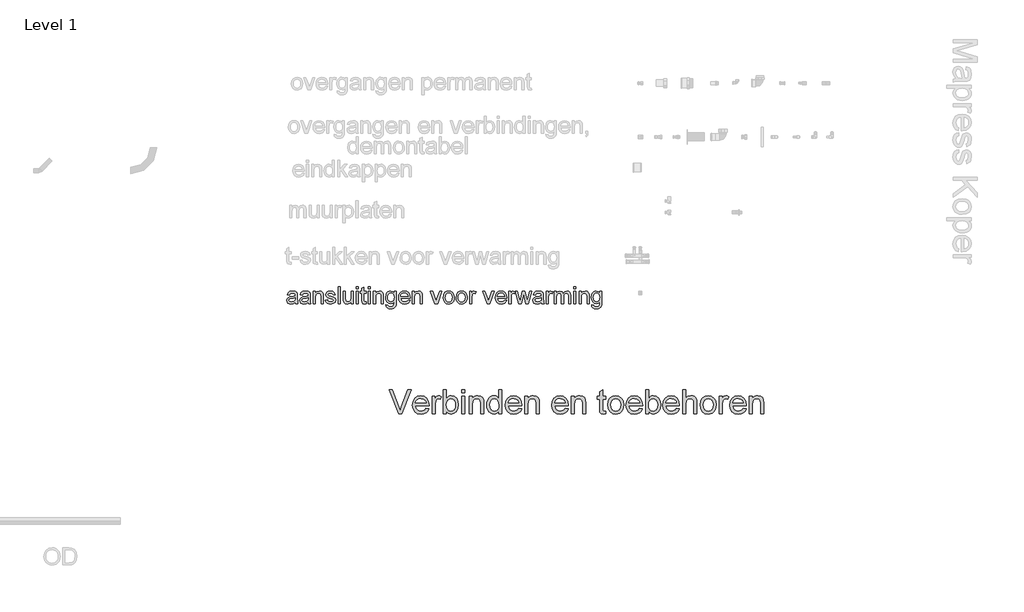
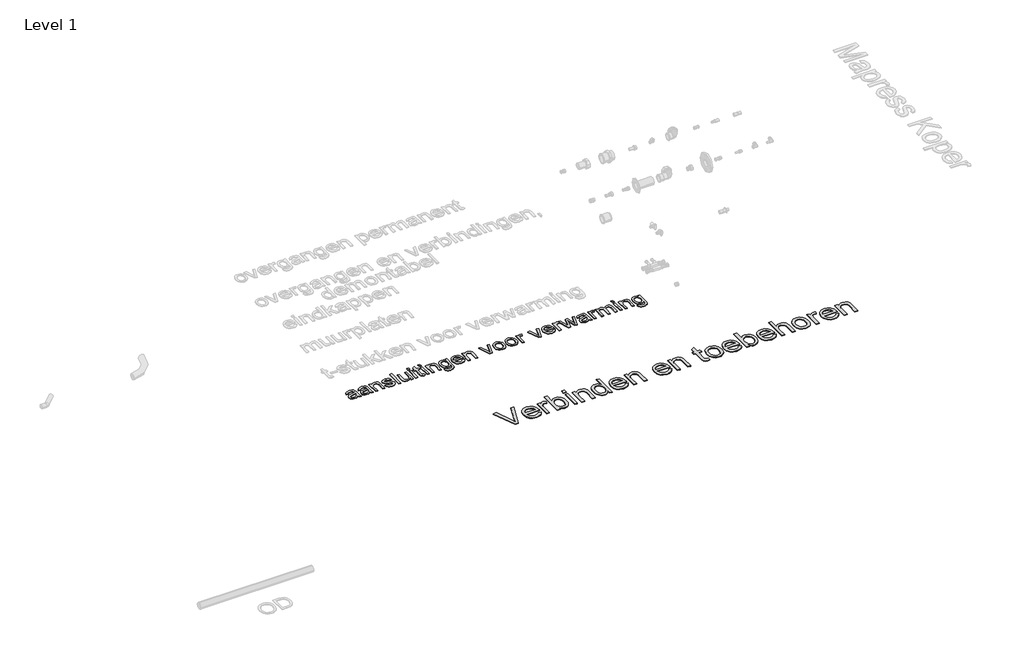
# One storey, part 3 of 7: 2 proxies.
"""IFC4 building model written with IfcOpenShell, lengths in millimetres."""

from ifc_helpers import new_model, si_unit, origin, origin_with_axes, place, context, project, spatial, polyline, outline, extrude, element, save

model = new_model("IFC4")

# Units and contexts
model_context = context("Model", 3, world=origin())
ifc_project = project(units=[si_unit("LENGTHUNIT", "METRE", prefix="MILLI")], contexts=[model_context])

# Site, building, storey
site = spatial("IfcSite", under=ifc_project)
building = spatial("IfcBuilding", under=site)
storey = spatial("IfcBuildingStorey", under=building, Name="Level 1", Elevation=0.0)

# Proxies
placement = place(None, origin())
element("IfcBuildingElementProxy", 1, Name="medium", ObjectType="medium", at=placement, inside=storey, context=model_context, shape_type="SweptSolid", body=[
    extrude(outline(polyline([(3174.865766, 2920.2899328), (3094.9127457, 3121.2025531), (3121.7926568, 3121.2025531), (3175.3072244, 2976.4532507), (3186.1474805, 2943.8343805), (3196.8405838, 2976.4532507), (3250.5023042, 3121.2025531), (3277.3822153, 3121.2025531), (3200.8137094, 2920.2899328), (3174.865766, 2920.2899328)])), origin_with_axes(), (0.0, 0.0, 1.0), 5.0),
    extrude(outline(polyline([(3400.8924638, 2964.2395685), (3425.516032, 2961.1003088), (3416.6439446, 2942.5467935), (3402.4866191, 2928.6776423), (3383.3628867, 2920.0324154), (3359.5915785, 2917.1506731), (3330.1242307, 2922.1232114), (3307.450437, 2937.0408263), (3292.9926746, 2960.9347619), (3288.1734205, 2992.8362622), (3293.0417255, 3025.8107517), (3307.6466408, 3050.4711081), (3330.0138661, 3065.8485755), (3358.1691014, 3070.974398), (3385.4475514, 3065.8608383), (3407.2445596, 3050.5201591), (3421.5367751, 3025.9088536), (3426.3008469, 2992.983415), (3426.1536941, 2986.2143863), (3313.287498, 2986.2143863), (3317.6346369, 2967.4156164), (3327.7329977, 2953.5955161), (3342.3072561, 2945.097442), (3360.0820878, 2942.2647506), (3384.705656, 2947.5132004), (3393.853655, 2954.3190173), (3400.8924638, 2964.2395685)]), holes=[polyline([(3313.287498, 3011.3284639), (3401.1867694, 3011.3284639), (3397.7899923, 3024.5967411), (3391.1313282, 3034.0880966), (3376.4896248, 3042.9172645), (3358.0709996, 3045.8603205), (3341.1422964, 3043.5120071), (3327.1443865, 3036.4670669), (3317.4139077, 3025.4857893), (3313.287498, 3011.3284639)])]), origin_with_axes(), (0.0, 0.0, 1.0), 5.0),
    extrude(outline(polyline([(3451.4149245, 2920.2899328), (3451.4149245, 3067.8351383), (3473.3897423, 3067.8351383), (3473.3897423, 3046.0074733), (3488.9879389, 3066.1183557), (3504.6842374, 3070.974398), (3517.1922252, 3069.0368862), (3529.8964168, 3063.2243506), (3521.5087073, 3040.7099725), (3503.8503715, 3045.8603205), (3489.6501265, 3040.9061763), (3480.6002294, 3027.1719151), (3476.529002, 2997.8394574), (3476.529002, 2920.2899328), (3451.4149245, 2920.2899328)])), origin_with_axes(), (0.0, 0.0, 1.0), 5.0),
    extrude(outline(polyline([(3570.7067928, 2920.2899328), (3545.5927152, 2920.2899328), (3545.5927152, 3121.2025531), (3570.7067928, 3121.2025531), (3570.7067928, 3046.6941863), (3588.2915521, 3064.9043451), (3598.6842185, 3069.4568848), (3610.1437427, 3070.974398), (3635.3068711, 3065.505219), (3654.8291423, 3050.1277516), (3666.8220954, 3026.2154219), (3671.1631029, 2996.2698275), (3666.6688112, 2962.743515), (3653.1859361, 2937.8011158), (3633.4000161, 2922.3132838), (3609.9965899, 2917.1506731), (3598.1599867, 2918.8153391), (3587.6661528, 2923.8093372), (3578.5150881, 2932.1326673), (3570.7067928, 2943.7853295), (3570.7067928, 2920.2899328)]), holes=[polyline([(3570.7067928, 2995.0926051), (3572.4235754, 2974.1478569), (3577.5739234, 2959.9721373), (3590.731836, 2946.6915973), (3607.8383488, 2942.2647506), (3622.3328994, 2945.5266377), (3634.7182599, 2955.3122987), (3643.216334, 2971.5604202), (3646.0490254, 2994.2096883), (3643.33283, 3017.1900503), (3635.1842438, 3033.2542308), (3623.1851594, 3042.708798), (3608.9174693, 3045.8603205), (3594.4229187, 3042.5984334), (3582.0375582, 3032.8127724), (3573.5394841, 3016.8589565), (3570.7067928, 2995.0926051)])]), origin_with_axes(), (0.0, 0.0, 1.0), 5.0),
    extrude(outline(polyline([(3699.4164402, 2920.2899328), (3699.4164402, 3067.8351383), (3724.5305177, 3067.8351383), (3724.5305177, 2920.2899328), (3699.4164402, 2920.2899328)])), origin_with_axes(), (0.0, 0.0, 1.0), 5.0),
    extrude(outline(polyline([(3699.4164402, 3096.0884755), (3699.4164402, 3121.2025531), (3724.5305177, 3121.2025531), (3724.5305177, 3096.0884755), (3699.4164402, 3096.0884755)])), origin_with_axes(), (0.0, 0.0, 1.0), 5.0),
    extrude(outline(polyline([(3762.201634, 2920.2899328), (3762.201634, 3067.8351383), (3787.3157115, 3067.8351383), (3787.3157115, 3047.2337466), (3796.0406462, 3057.6202816), (3806.5191517, 3065.0392352), (3818.751228, 3069.4906073), (3832.7368752, 3070.974398), (3856.4530012, 3066.1919321), (3872.639809, 3053.6348933), (3880.1691271, 3035.1672171), (3881.4935023, 3010.8870055), (3881.4935023, 2920.2899328), (3856.3794248, 2920.2899328), (3856.3794248, 3007.5024911), (3853.4854197, 3029.7225636), (3843.2583003, 3041.470262), (3826.0168974, 3045.8603205), (3811.307749, 3043.3955111), (3798.7691043, 3036.001083), (3790.1790597, 3021.7149989), (3787.3157115, 2998.5752214), (3787.3157115, 2920.2899328), (3762.201634, 2920.2899328)])), origin_with_axes(), (0.0, 0.0, 1.0), 5.0),
    extrude(outline(polyline([(4007.06389, 2920.2899328), (4007.06389, 2943.9815333), (3999.5499002, 2932.2430319), (3990.4478865, 2923.8583881), (3979.7578489, 2918.8276019), (3967.4797873, 2917.1506731), (3951.2439286, 2919.5786943), (3936.381496, 2926.8627578), (3923.7999317, 2938.4939602), (3914.4066781, 2953.9633981), (3908.5573544, 2972.6456721), (3906.6075798, 2993.9153827), (3908.4040702, 3014.9214447), (3913.7935415, 3033.8918929), (3922.7698622, 3049.7476069), (3935.3269009, 3061.4094661), (3950.514296, 3068.583165), (3967.3816854, 3070.974398), (3979.6689441, 3069.2637467), (3990.5337257, 3064.1317929), (4007.06389, 3046.3508298), (4007.06389, 3121.2025531), (4032.1779675, 3121.2025531), (4032.1779675, 2920.2899328), (4007.06389, 2920.2899328)]), holes=[polyline([(3931.7216574, 2994.0134846), (3934.5543487, 2971.2967714), (3943.0524228, 2955.1406205), (3955.4009951, 2945.4837181), (3969.7851811, 2942.2647506), (3984.1632358, 2945.3365653), (3996.1991084, 2954.5520093), (4004.3476946, 2970.0827608), (4007.06389, 2992.1004982), (4004.2986437, 3016.1722435), (3996.0029047, 3032.8618233), (3983.6604637, 3042.6106962), (3968.7551116, 3045.8603205), (3954.2237727, 3042.7394549), (3942.3166588, 3033.3768581), (3934.3704077, 3017.2942835), (3931.7216574, 2994.0134846)])]), origin_with_axes(), (0.0, 0.0, 1.0), 5.0),
    extrude(outline(polyline([(4173.1503481, 2964.2395685), (4197.7739163, 2961.1003088), (4188.9018288, 2942.5467935), (4174.7445034, 2928.6776423), (4155.620771, 2920.0324154), (4131.8494628, 2917.1506731), (4102.3821149, 2922.1232114), (4079.7083213, 2937.0408263), (4065.2505589, 2960.9347619), (4060.4313048, 2992.8362622), (4065.2996098, 3025.8107517), (4079.904525, 3050.4711081), (4102.2717503, 3065.8485755), (4130.4269857, 3070.974398), (4157.7054356, 3065.8608383), (4179.5024439, 3050.5201591), (4193.7946594, 3025.9088536), (4198.5587312, 2992.983415), (4198.4115784, 2986.2143863), (4085.5453823, 2986.2143863), (4089.8925212, 2967.4156164), (4099.990882, 2953.5955161), (4114.5651403, 2945.097442), (4132.3399721, 2942.2647506), (4156.9635403, 2947.5132004), (4166.1115392, 2954.3190173), (4173.1503481, 2964.2395685)]), holes=[polyline([(4085.5453823, 3011.3284639), (4173.4446537, 3011.3284639), (4170.0478766, 3024.5967411), (4163.3892125, 3034.0880966), (4148.7475091, 3042.9172645), (4130.3288838, 3045.8603205), (4113.4001807, 3043.5120071), (4099.4022708, 3036.4670669), (4089.671792, 3025.4857893), (4085.5453823, 3011.3284639)])]), origin_with_axes(), (0.0, 0.0, 1.0), 5.0),
    extrude(outline(polyline([(4223.6728087, 2920.2899328), (4223.6728087, 3067.8351383), (4248.7868863, 3067.8351383), (4248.7868863, 3047.2337466), (4257.5118209, 3057.6202816), (4267.9903264, 3065.0392352), (4280.2224028, 3069.4906073), (4294.20805, 3070.974398), (4317.9241759, 3066.1919321), (4334.1109837, 3053.6348933), (4341.6403019, 3035.1672171), (4342.9646771, 3010.8870055), (4342.9646771, 2920.2899328), (4317.8505995, 2920.2899328), (4317.8505995, 3007.5024911), (4314.9565945, 3029.7225636), (4304.729475, 3041.470262), (4287.4880722, 3045.8603205), (4272.7789237, 3043.3955111), (4260.2402791, 3036.001083), (4251.6502345, 3021.7149989), (4248.7868863, 2998.5752214), (4248.7868863, 2920.2899328), (4223.6728087, 2920.2899328)])), origin_with_axes(), (0.0, 0.0, 1.0), 5.0),
    extrude(outline(polyline([(4559.2792902, 2964.2395685), (4583.9028584, 2961.1003088), (4575.030771, 2942.5467935), (4560.8734455, 2928.6776423), (4541.7497131, 2920.0324154), (4517.9784049, 2917.1506731), (4488.5110571, 2922.1232114), (4465.8372634, 2937.0408263), (4451.379501, 2960.9347619), (4446.5602469, 2992.8362622), (4451.428552, 3025.8107517), (4466.0334672, 3050.4711081), (4488.4006925, 3065.8485755), (4516.5559278, 3070.974398), (4543.8343778, 3065.8608383), (4565.631386, 3050.5201591), (4579.9236015, 3025.9088536), (4584.6876733, 2992.983415), (4584.5405206, 2986.2143863), (4471.6743244, 2986.2143863), (4476.0214633, 2967.4156164), (4486.1198241, 2953.5955161), (4500.6940825, 2945.097442), (4518.4689142, 2942.2647506), (4543.0924824, 2947.5132004), (4552.2404814, 2954.3190173), (4559.2792902, 2964.2395685)]), holes=[polyline([(4471.6743244, 3011.3284639), (4559.5735958, 3011.3284639), (4556.1768187, 3024.5967411), (4549.5181546, 3034.0880966), (4534.8764512, 3042.9172645), (4516.457826, 3045.8603205), (4499.5291228, 3043.5120071), (4485.5312129, 3036.4670669), (4475.8007341, 3025.4857893), (4471.6743244, 3011.3284639)])]), origin_with_axes(), (0.0, 0.0, 1.0), 5.0),
    extrude(outline(polyline([(4609.8017509, 2920.2899328), (4609.8017509, 3067.8351383), (4634.9158284, 3067.8351383), (4634.9158284, 3047.2337466), (4643.6407631, 3057.6202816), (4654.1192686, 3065.0392352), (4666.3513449, 3069.4906073), (4680.3369921, 3070.974398), (4704.0531181, 3066.1919321), (4720.2399258, 3053.6348933), (4727.769244, 3035.1672171), (4729.0936192, 3010.8870055), (4729.0936192, 2920.2899328), (4703.9795417, 2920.2899328), (4703.9795417, 3007.5024911), (4701.0855366, 3029.7225636), (4690.8584172, 3041.470262), (4673.6170143, 3045.8603205), (4658.9078659, 3043.3955111), (4646.3692212, 3036.001083), (4637.7791766, 3021.7149989), (4634.9158284, 2998.5752214), (4634.9158284, 2920.2899328), (4609.8017509, 2920.2899328)])), origin_with_axes(), (0.0, 0.0, 1.0), 5.0),
    extrude(outline(polyline([(4895.4743829, 2941.234681), (4898.6136426, 2919.5541688), (4879.8271353, 2917.1506731), (4858.7842852, 2921.3200024), (4848.2873856, 2932.2583604), (4845.2462278, 2960.7569523), (4845.2462278, 3042.7210608), (4826.4106696, 3042.7210608), (4826.4106696, 3067.8351383), (4845.2462278, 3067.8351383), (4845.2462278, 3103.6913701), (4870.3603053, 3118.4557009), (4870.3603053, 3067.8351383), (4895.4743829, 3067.8351383), (4895.4743829, 3042.7210608), (4870.3603053, 3042.7210608), (4870.3603053, 2961.4927162), (4871.6846805, 2948.54327), (4875.9766371, 2943.9570078), (4884.5360249, 2942.2647506), (4895.4743829, 2941.234681)])), origin_with_axes(), (0.0, 0.0, 1.0), 5.0),
    extrude(outline(polyline([(4914.309941, 2994.0625355), (4919.7423318, 3029.6367245), (4926.5328203, 3043.4598904), (4936.0395042, 3054.6404374), (4956.1749121, 3066.8909079), (4980.2834455, 3070.974398), (5006.6667159, 3066.0018597), (5027.7402229, 3051.0842448), (5041.5541918, 3027.3987757), (5046.1588481, 2996.1226747), (5044.1232344, 2970.7510798), (5038.0163933, 2951.437275), (5028.0161344, 2936.9733813), (5014.3002673, 2926.1515192), (4998.0092263, 2919.4008846), (4980.2834455, 2917.1506731), (4953.581344, 2922.1048173), (4932.5323625, 2936.9672499), (4918.8655464, 2961.1493597), (4914.309941, 2994.0625355)]), holes=[polyline([(4939.4240186, 2994.1115865), (4942.3302863, 2971.3826105), (4951.0490896, 2955.1896714), (4964.1702141, 2945.4959808), (4980.2834455, 2942.2647506), (4996.3231005, 2945.5143749), (5009.4196995, 2955.2632478), (5018.1385028, 2971.6707848), (5021.0447706, 2994.8964014), (5018.1201087, 3016.9631897), (5009.3461231, 3032.9353997), (4996.23113, 3042.6290903), (4980.2834455, 3045.8603205), (4964.1702141, 3042.641353), (4951.0490896, 3032.9844506), (4942.3302863, 3016.8282997), (4939.4240186, 2994.1115865)])]), origin_with_axes(), (0.0, 0.0, 1.0), 5.0),
    extrude(outline(polyline([(5177.7134496, 2964.2395685), (5202.3370178, 2961.1003088), (5193.4649303, 2942.5467935), (5179.3076049, 2928.6776423), (5160.1838725, 2920.0324154), (5136.4125642, 2917.1506731), (5106.9452164, 2922.1232114), (5084.2714228, 2937.0408263), (5069.8136604, 2960.9347619), (5064.9944063, 2992.8362622), (5069.8627113, 3025.8107517), (5084.4676265, 3050.4711081), (5106.8348518, 3065.8485755), (5134.9900872, 3070.974398), (5162.2685371, 3065.8608383), (5184.0655454, 3050.5201591), (5198.3577609, 3025.9088536), (5203.1218327, 2992.983415), (5202.9746799, 2986.2143863), (5090.1084838, 2986.2143863), (5094.4556227, 2967.4156164), (5104.5539835, 2953.5955161), (5119.1282418, 2945.097442), (5136.9030736, 2942.2647506), (5161.5266418, 2947.5132004), (5170.6746407, 2954.3190173), (5177.7134496, 2964.2395685)]), holes=[polyline([(5090.1084838, 3011.3284639), (5178.0077552, 3011.3284639), (5174.6109781, 3024.5967411), (5167.952314, 3034.0880966), (5153.3106106, 3042.9172645), (5134.8919853, 3045.8603205), (5117.9632822, 3043.5120071), (5103.9653723, 3036.4670669), (5094.2348935, 3025.4857893), (5090.1084838, 3011.3284639)])]), origin_with_axes(), (0.0, 0.0, 1.0), 5.0),
    extrude(outline(polyline([(5253.3499878, 2920.2899328), (5228.2359102, 2920.2899328), (5228.2359102, 3121.2025531), (5253.3499878, 3121.2025531), (5253.3499878, 3046.6941863), (5270.9347472, 3064.9043451), (5281.3274135, 3069.4568848), (5292.7869377, 3070.974398), (5317.9500661, 3065.505219), (5337.4723373, 3050.1277516), (5349.4652904, 3026.2154219), (5353.8062979, 2996.2698275), (5349.3120062, 2962.743515), (5335.8291311, 2937.8011158), (5316.0432111, 2922.3132838), (5292.6397849, 2917.1506731), (5280.8031817, 2918.8153391), (5270.3093478, 2923.8093372), (5261.1582831, 2932.1326673), (5253.3499878, 2943.7853295), (5253.3499878, 2920.2899328)]), holes=[polyline([(5253.3499878, 2995.0926051), (5255.0667704, 2974.1478569), (5260.2171184, 2959.9721373), (5273.3750311, 2946.6915973), (5290.4815438, 2942.2647506), (5304.9760944, 2945.5266377), (5317.3614549, 2955.3122987), (5325.859529, 2971.5604202), (5328.6922204, 2994.2096883), (5325.976025, 3017.1900503), (5317.8274388, 3033.2542308), (5305.8283544, 3042.708798), (5291.5606643, 3045.8603205), (5277.0661137, 3042.5984334), (5264.6807532, 3032.8127724), (5256.1826791, 3016.8589565), (5253.3499878, 2995.0926051)])]), origin_with_axes(), (0.0, 0.0, 1.0), 5.0),
    extrude(outline(polyline([(5485.3608994, 2964.2395685), (5509.9844676, 2961.1003088), (5501.1123802, 2942.5467935), (5486.9550547, 2928.6776423), (5467.8313223, 2920.0324154), (5444.0600141, 2917.1506731), (5414.5926663, 2922.1232114), (5391.9188726, 2937.0408263), (5377.4611102, 2960.9347619), (5372.6418561, 2992.8362622), (5377.5101612, 3025.8107517), (5392.1150764, 3050.4711081), (5414.4823017, 3065.8485755), (5442.637537, 3070.974398), (5469.915987, 3065.8608383), (5491.7129952, 3050.5201591), (5506.0052107, 3025.9088536), (5510.7692825, 2992.983415), (5510.6221297, 2986.2143863), (5397.7559336, 2986.2143863), (5402.1030725, 2967.4156164), (5412.2014333, 2953.5955161), (5426.7756917, 2945.097442), (5444.5505234, 2942.2647506), (5469.1740916, 2947.5132004), (5478.3220906, 2954.3190173), (5485.3608994, 2964.2395685)]), holes=[polyline([(5397.7559336, 3011.3284639), (5485.655205, 3011.3284639), (5482.2584279, 3024.5967411), (5475.5997638, 3034.0880966), (5460.9580604, 3042.9172645), (5442.5394352, 3045.8603205), (5425.610732, 3043.5120071), (5411.6128221, 3036.4670669), (5401.8823433, 3025.4857893), (5397.7559336, 3011.3284639)])]), origin_with_axes(), (0.0, 0.0, 1.0), 5.0),
    extrude(outline(polyline([(5535.8833601, 2920.2899328), (5535.8833601, 3121.2025531), (5560.9974376, 3121.2025531), (5560.9974376, 3047.3318484), (5580.5810225, 3065.0637606), (5604.7018186, 3070.974398), (5619.8708196, 3069.3618486), (5632.9061049, 3064.5242004), (5643.1700126, 3056.841598), (5650.0248804, 3046.6941863), (5653.8876414, 3032.7514587), (5655.1752284, 3013.6829086), (5655.1752284, 2920.2899328), (5630.0611508, 2920.2899328), (5630.0611508, 3011.0832092), (5628.0623253, 3026.8040331), (5622.0658488, 3037.5707128), (5612.4028151, 3043.7879186), (5599.4043179, 3045.8603205), (5578.8274516, 3040.2685141), (5570.5746322, 3033.6834264), (5565.0931905, 3025.1117759), (5560.9974376, 2998.6733232), (5560.9974376, 2920.2899328), (5535.8833601, 2920.2899328)])), origin_with_axes(), (0.0, 0.0, 1.0), 5.0),
    extrude(outline(polyline([(5683.4285656, 2994.0625355), (5688.8609564, 3029.6367245), (5695.6514449, 3043.4598904), (5705.1581288, 3054.6404374), (5725.2935367, 3066.8909079), (5749.4020701, 3070.974398), (5775.7853405, 3066.0018597), (5796.8588475, 3051.0842448), (5810.6728164, 3027.3987757), (5815.2774727, 2996.1226747), (5813.241859, 2970.7510798), (5807.1350179, 2951.437275), (5797.134759, 2936.9733813), (5783.4188919, 2926.1515192), (5767.1278509, 2919.4008846), (5749.4020701, 2917.1506731), (5722.6999686, 2922.1048173), (5701.6509871, 2936.9672499), (5687.984171, 2961.1493597), (5683.4285656, 2994.0625355)]), holes=[polyline([(5708.5426431, 2994.1115865), (5711.4489109, 2971.3826105), (5720.1677142, 2955.1896714), (5733.2888387, 2945.4959808), (5749.4020701, 2942.2647506), (5765.4417251, 2945.5143749), (5778.5383241, 2955.2632478), (5787.2571274, 2971.6707848), (5790.1633951, 2994.8964014), (5787.2387333, 3016.9631897), (5778.4647477, 3032.9353997), (5765.3497546, 3042.6290903), (5749.4020701, 3045.8603205), (5733.2888387, 3042.641353), (5720.1677142, 3032.9844506), (5711.4489109, 3016.8282997), (5708.5426431, 2994.1115865)])]), origin_with_axes(), (0.0, 0.0, 1.0), 5.0),
    extrude(outline(polyline([(5843.5308099, 2920.2899328), (5843.5308099, 3067.8351383), (5865.5056278, 3067.8351383), (5865.5056278, 3046.0074733), (5881.1038244, 3066.1183557), (5896.8001228, 3070.974398), (5909.3081106, 3069.0368862), (5922.0123022, 3063.2243506), (5913.6245927, 3040.7099725), (5895.966257, 3045.8603205), (5881.7660119, 3040.9061763), (5872.7161149, 3027.1719151), (5868.6448874, 2997.8394574), (5868.6448874, 2920.2899328), (5843.5308099, 2920.2899328)])), origin_with_axes(), (0.0, 0.0, 1.0), 5.0),
    extrude(outline(polyline([(6041.0098649, 2964.2395685), (6065.6334331, 2961.1003088), (6056.7613457, 2942.5467935), (6042.6040202, 2928.6776423), (6023.4802879, 2920.0324154), (5999.7089796, 2917.1506731), (5970.2416318, 2922.1232114), (5947.5678381, 2937.0408263), (5933.1100757, 2960.9347619), (5928.2908216, 2992.8362622), (5933.1591267, 3025.8107517), (5947.7640419, 3050.4711081), (5970.1312672, 3065.8485755), (5998.2865025, 3070.974398), (6025.5649525, 3065.8608383), (6047.3619607, 3050.5201591), (6061.6541762, 3025.9088536), (6066.4182481, 2992.983415), (6066.2710953, 2986.2143863), (5953.4048991, 2986.2143863), (5957.752038, 2967.4156164), (5967.8503988, 2953.5955161), (5982.4246572, 2945.097442), (6000.1994889, 2942.2647506), (6024.8230571, 2947.5132004), (6033.9710561, 2954.3190173), (6041.0098649, 2964.2395685)]), holes=[polyline([(5953.4048991, 3011.3284639), (6041.3041705, 3011.3284639), (6037.9073934, 3024.5967411), (6031.2487293, 3034.0880966), (6016.6070259, 3042.9172645), (5998.1884007, 3045.8603205), (5981.2596975, 3043.5120071), (5967.2617876, 3036.4670669), (5957.5313088, 3025.4857893), (5953.4048991, 3011.3284639)])]), origin_with_axes(), (0.0, 0.0, 1.0), 5.0),
    extrude(outline(polyline([(6091.5323256, 2920.2899328), (6091.5323256, 3067.8351383), (6116.6464031, 3067.8351383), (6116.6464031, 3047.2337466), (6125.3713378, 3057.6202816), (6135.8498433, 3065.0392352), (6148.0819196, 3069.4906073), (6162.0675668, 3070.974398), (6185.7836928, 3066.1919321), (6201.9705005, 3053.6348933), (6209.4998187, 3035.1672171), (6210.8241939, 3010.8870055), (6210.8241939, 2920.2899328), (6185.7101164, 2920.2899328), (6185.7101164, 3007.5024911), (6182.8161113, 3029.7225636), (6172.5889919, 3041.470262), (6155.347589, 3045.8603205), (6140.6384406, 3043.3955111), (6128.0997959, 3036.001083), (6119.5097513, 3021.7149989), (6116.6464031, 2998.5752214), (6116.6464031, 2920.2899328), (6091.5323256, 2920.2899328)])), origin_with_axes(), (0.0, 0.0, 1.0), 5.0),
])
element("IfcBuildingElementProxy", 2, Name="small", ObjectType="small", at=placement, inside=storey, context=model_context, shape_type="SweptSolid", body=[
    extrude(outline(polyline([(2313.0413405, 3848.9700708), (2295.9936888, 3837.0555993), (2277.1605832, 3833.5876983), (2262.4692157, 3835.6735892), (2251.6320253, 3841.931262), (2244.9494488, 3851.4336539), (2242.7219234, 3863.2537024), (2246.0868173, 3877.1596418), (2254.928248, 3887.2543238), (2267.2375795, 3893.0227135), (2282.4482737, 3895.6665587), (2312.9383335, 3901.7096336), (2313.0413405, 3905.6238981), (2311.8310087, 3913.4695947), (2308.2000134, 3918.6027749), (2300.0796315, 3922.4140323), (2288.7660339, 3923.6844515), (2270.9801657, 3920.3023897), (2262.4992594, 3908.302079), (2244.9194051, 3910.4995608), (2252.5247523, 3927.6673872), (2267.8384534, 3937.7277335), (2291.032187, 3941.2643058), (2312.3374596, 3938.1397613), (2324.3721059, 3930.2940647), (2329.7628034, 3918.3624253), (2330.6211947, 3902.9800528), (2330.6211947, 3881.1082419), (2331.5139217, 3850.5666787), (2335.0161583, 3835.7851801), (2317.436304, 3835.7851801), (2313.0413405, 3848.9700708)]), holes=[polyline([(2313.0413405, 3884.1297794), (2284.6800912, 3878.7390819), (2269.5552361, 3875.8892227), (2262.7052733, 3871.2539095), (2260.3017776, 3864.4897859), (2265.5379647, 3854.9788101), (2280.9031694, 3851.1675526), (2298.6890376, 3855.3736701), (2310.1571456, 3865.5541911), (2312.9383335, 3879.1511097), (2313.0413405, 3884.1297794)])]), origin_with_axes(), (0.0, 0.0, 1.0), 5.0),
    extrude(outline(polyline([(2420.7179479, 3848.9700708), (2403.6702962, 3837.0555993), (2384.8371906, 3833.5876983), (2370.1458232, 3835.6735892), (2359.3086327, 3841.931262), (2352.6260563, 3851.4336539), (2350.3985308, 3863.2537024), (2353.7634248, 3877.1596418), (2362.6048554, 3887.2543238), (2374.914187, 3893.0227135), (2390.1248812, 3895.6665587), (2420.6149409, 3901.7096336), (2420.7179479, 3905.6238981), (2419.5076161, 3913.4695947), (2415.8766208, 3918.6027749), (2407.7562389, 3922.4140323), (2396.4426413, 3923.6844515), (2378.6567731, 3920.3023897), (2370.1758669, 3908.302079), (2352.5960126, 3910.4995608), (2360.2013597, 3927.6673872), (2375.5150609, 3937.7277335), (2398.7087944, 3941.2643058), (2420.014067, 3938.1397613), (2432.0487134, 3930.2940647), (2437.4394109, 3918.3624253), (2438.2978022, 3902.9800528), (2438.2978022, 3881.1082419), (2439.1905292, 3850.5666787), (2442.6927657, 3835.7851801), (2425.1129115, 3835.7851801), (2420.7179479, 3848.9700708)]), holes=[polyline([(2420.7179479, 3884.1297794), (2392.3566986, 3878.7390819), (2377.2318435, 3875.8892227), (2370.3818808, 3871.2539095), (2367.9783851, 3864.4897859), (2373.2145721, 3854.9788101), (2388.5797768, 3851.1675526), (2406.365645, 3855.3736701), (2417.8337531, 3865.5541911), (2420.6149409, 3879.1511097), (2420.7179479, 3884.1297794)])]), origin_with_axes(), (0.0, 0.0, 1.0), 5.0),
    extrude(outline(polyline([(2462.4701018, 3835.7851801), (2462.4701018, 3939.066824), (2480.0499561, 3939.066824), (2480.0499561, 3924.6458498), (2493.4923642, 3937.1096918), (2511.8447707, 3941.2643058), (2528.4460588, 3937.9165796), (2539.7768243, 3929.1266525), (2545.047347, 3916.1992791), (2545.9744096, 3899.203131), (2545.9744096, 3835.7851801), (2528.3945553, 3835.7851801), (2528.3945553, 3896.8339709), (2526.3687518, 3912.3880217), (2519.2097682, 3920.6114105), (2507.1407862, 3923.6844515), (2496.8443823, 3921.9590849), (2488.067331, 3916.7829852), (2482.0542998, 3906.7827263), (2480.0499561, 3890.5848821), (2480.0499561, 3835.7851801), (2462.4701018, 3835.7851801)])), origin_with_axes(), (0.0, 0.0, 1.0), 5.0),
    extrude(outline(polyline([(2563.5542639, 3866.5499251), (2581.1341182, 3868.7474069), (2583.9067221, 3861.2278989), (2589.2716679, 3855.6998588), (2607.9159274, 3851.1675526), (2625.8391382, 3855.3221666), (2631.6761992, 3865.073492), (2625.8048026, 3872.9706922), (2607.7099135, 3877.9836975), (2581.2371251, 3886.5847785), (2569.6831779, 3896.627957), (2565.7517457, 3910.8085816), (2568.9106257, 3923.9076332), (2577.5288746, 3933.916476), (2588.7051296, 3939.1183274), (2603.8299847, 3941.2643058), (2625.2210965, 3937.8135726), (2638.818015, 3928.4742751), (2644.8610899, 3912.6970426), (2627.2812356, 3910.4995608), (2620.6716225, 3920.1993827), (2605.2034108, 3923.6844515), (2588.3789409, 3920.3538931), (2583.3316, 3912.5940356), (2585.4260748, 3907.4780233), (2591.9841845, 3903.5980945), (2607.1262074, 3899.8555084), (2632.9294505, 3891.580616), (2644.9125934, 3882.2069828), (2649.2560535, 3866.9276173), (2644.157209, 3850.1031473), (2629.4443818, 3837.8968227), (2607.6755779, 3833.5876983), (2589.9497971, 3835.6650053), (2577.0138398, 3841.8969263), (2568.3784231, 3852.21479), (2563.5542639, 3866.5499251)])), origin_with_axes(), (0.0, 0.0, 1.0), 5.0),
    extrude(outline(polyline([(2669.0333896, 3835.7851801), (2669.0333896, 3976.4240143), (2686.6132438, 3976.4240143), (2686.6132438, 3835.7851801), (2669.0333896, 3835.7851801)])), origin_with_axes(), (0.0, 0.0, 1.0), 5.0),
    extrude(outline(polyline([(2778.9074788, 3835.7851801), (2778.9074788, 3853.5367126), (2765.138882, 3838.5749519), (2747.1813355, 3833.5876983), (2730.6487187, 3837.0899349), (2719.2492819, 3845.879862), (2714.0130948, 3858.8244032), (2712.9830252, 3875.168174), (2712.9830252, 3939.066824), (2730.5628795, 3939.066824), (2730.5628795, 3883.4430663), (2731.6272848, 3865.5198555), (2738.5802545, 3854.9959779), (2751.679306, 3851.1675526), (2766.3577977, 3855.081817), (2776.0576196, 3865.7430372), (2778.9074788, 3885.3315272), (2778.9074788, 3939.066824), (2796.4873331, 3939.066824), (2796.4873331, 3835.7851801), (2778.9074788, 3835.7851801)])), origin_with_axes(), (0.0, 0.0, 1.0), 5.0),
    extrude(outline(polyline([(2820.6596327, 3958.84416), (2820.6596327, 3976.4240143), (2838.239487, 3976.4240143), (2838.239487, 3958.84416), (2820.6596327, 3958.84416)])), origin_with_axes(), (0.0, 0.0, 1.0), 5.0),
    extrude(outline(polyline([(2820.6596327, 3835.7851801), (2820.6596327, 3939.066824), (2838.239487, 3939.066824), (2838.239487, 3835.7851801), (2820.6596327, 3835.7851801)])), origin_with_axes(), (0.0, 0.0, 1.0), 5.0),
    extrude(outline(polyline([(2901.9664587, 3850.4465039), (2904.1639405, 3835.2701453), (2891.0133854, 3833.5876983), (2876.2833904, 3836.5062288), (2868.9355606, 3844.1630794), (2866.8067502, 3864.1120937), (2866.8067502, 3921.4869697), (2853.6218595, 3921.4869697), (2853.6218595, 3939.066824), (2866.8067502, 3939.066824), (2866.8067502, 3964.1661862), (2884.3866044, 3974.5012177), (2884.3866044, 3939.066824), (2901.9664587, 3939.066824), (2901.9664587, 3921.4869697), (2884.3866044, 3921.4869697), (2884.3866044, 3864.6271285), (2885.3136671, 3855.5625162), (2888.3180367, 3852.3521326), (2894.3096081, 3851.1675526), (2901.9664587, 3850.4465039)])), origin_with_axes(), (0.0, 0.0, 1.0), 5.0),
    extrude(outline(polyline([(2919.546313, 3958.84416), (2919.546313, 3976.4240143), (2937.1261673, 3976.4240143), (2937.1261673, 3958.84416), (2919.546313, 3958.84416)])), origin_with_axes(), (0.0, 0.0, 1.0), 5.0),
    extrude(outline(polyline([(2919.546313, 3835.7851801), (2919.546313, 3939.066824), (2937.1261673, 3939.066824), (2937.1261673, 3835.7851801), (2919.546313, 3835.7851801)])), origin_with_axes(), (0.0, 0.0, 1.0), 5.0),
    extrude(outline(polyline([(2963.4959487, 3835.7851801), (2963.4959487, 3939.066824), (2981.075803, 3939.066824), (2981.075803, 3924.6458498), (2994.5182111, 3937.1096918), (3012.8706175, 3941.2643058), (3029.4719057, 3937.9165796), (3040.8026711, 3929.1266525), (3046.0731939, 3916.1992791), (3047.0002565, 3899.203131), (3047.0002565, 3835.7851801), (3029.4204022, 3835.7851801), (3029.4204022, 3896.8339709), (3027.3945987, 3912.3880217), (3020.2356151, 3920.6114105), (3008.1666331, 3923.6844515), (2997.8702292, 3921.9590849), (2989.0931779, 3916.7829852), (2983.0801467, 3906.7827263), (2981.075803, 3890.5848821), (2981.075803, 3835.7851801), (2963.4959487, 3835.7851801)])), origin_with_axes(), (0.0, 0.0, 1.0), 5.0),
    extrude(outline(polyline([(3066.7775926, 3826.995253), (3084.3574468, 3824.7977712), (3090.0571652, 3815.5271449), (3107.1219847, 3811.6128805), (3125.1138668, 3816.0421797), (3133.69778, 3828.471686), (3134.8995279, 3848.9700708), (3122.521525, 3839.0814028), (3107.4310056, 3835.7851801), (3089.3060728, 3839.6221893), (3075.7907014, 3851.1332169), (3067.3827584, 3868.0091903), (3064.5801108, 3887.9410368), (3069.6102839, 3915.1863774), (3075.7649497, 3926.2467496), (3084.1686007, 3934.4658465), (3094.533676, 3939.5646909), (3106.5726142, 3941.2643058), (3122.2554237, 3937.4187126), (3134.8995279, 3925.8819333), (3134.8995279, 3939.066824), (3152.4793821, 3939.066824), (3152.4793821, 3849.8971334), (3151.2776343, 3829.3086176), (3147.6723907, 3815.7503266), (3141.4619295, 3806.7586775), (3132.4445287, 3799.8700872), (3120.8176182, 3795.4922914), (3106.7786282, 3794.0330262), (3090.4219815, 3796.0888734), (3077.5418197, 3802.2564151), (3069.2798033, 3812.552819), (3066.7775926, 3826.995253)]), holes=[polyline([(3082.159965, 3889.1427847), (3084.0355501, 3873.0179037), (3089.6623052, 3861.9317798), (3098.1217517, 3855.5067207), (3108.4954108, 3853.3650344), (3118.7918147, 3855.4938449), (3127.2941808, 3861.8802763), (3132.9981911, 3872.8247656), (3134.8995279, 3888.6277499), (3132.9423957, 3903.8684878), (3127.070999, 3914.8430209), (3118.4441662, 3921.4740938), (3108.2207256, 3923.6844515), (3098.1818391, 3921.5084295), (3089.7653122, 3914.9803635), (3084.0613018, 3904.1689248), (3082.159965, 3889.1427847)])]), origin_with_axes(), (0.0, 0.0, 1.0), 5.0),
    extrude(outline(polyline([(3251.1600485, 3866.5499251), (3268.3965463, 3864.3524433), (3262.1860851, 3851.3649826), (3252.2759573, 3841.6565767), (3238.8893446, 3835.6049179), (3222.2494288, 3833.5876983), (3201.6222853, 3837.0684751), (3185.7506298, 3847.5108056), (3175.6301961, 3864.2365605), (3172.2567182, 3886.5676107), (3175.6645318, 3909.6497534), (3185.8879724, 3926.9120028), (3201.5450301, 3937.67623), (3221.2536949, 3941.2643058), (3240.3486098, 3937.6848139), (3255.6065156, 3926.9463385), (3265.6110664, 3909.7184247), (3268.9459167, 3886.6706177), (3268.8429098, 3881.9322976), (3189.8365725, 3881.9322976), (3192.8795697, 3868.7731586), (3199.9484223, 3859.0990884), (3210.1504031, 3853.1504365), (3222.5927853, 3851.1675526), (3239.8292831, 3854.8414674), (3251.1600485, 3866.5499251)]), holes=[polyline([(3189.8365725, 3899.5121518), (3251.3660625, 3899.5121518), (3244.3272536, 3915.4438948), (3234.0780612, 3921.6243123), (3221.1850236, 3923.6844515), (3209.3349314, 3922.0406321), (3199.5363944, 3917.109174), (3192.7250593, 3909.4222797), (3189.8365725, 3899.5121518)])]), origin_with_axes(), (0.0, 0.0, 1.0), 5.0),
    extrude(outline(polyline([(3286.525771, 3835.7851801), (3286.525771, 3939.066824), (3304.1056253, 3939.066824), (3304.1056253, 3924.6458498), (3317.5480334, 3937.1096918), (3335.9004399, 3941.2643058), (3352.501728, 3937.9165796), (3363.8324935, 3929.1266525), (3369.1030162, 3916.1992791), (3370.0300788, 3899.203131), (3370.0300788, 3835.7851801), (3352.4502245, 3835.7851801), (3352.4502245, 3896.8339709), (3350.424421, 3912.3880217), (3343.2654374, 3920.6114105), (3331.1964554, 3923.6844515), (3320.9000515, 3921.9590849), (3312.1230002, 3916.7829852), (3306.109969, 3906.7827263), (3304.1056253, 3890.5848821), (3304.1056253, 3835.7851801), (3286.525771, 3835.7851801)])), origin_with_axes(), (0.0, 0.0, 1.0), 5.0),
    extrude(outline(polyline([(3474.4791349, 3835.7851801), (3438.1520141, 3939.066824), (3456.761938, 3939.066824), (3478.7710915, 3877.1939775), (3485.3978725, 3856.3865718), (3491.8873109, 3876.0265653), (3514.033807, 3939.066824), (3532.6437309, 3939.066824), (3496.7629736, 3835.7851801), (3474.4791349, 3835.7851801)])), origin_with_axes(), (0.0, 0.0, 1.0), 5.0),
    extrude(outline(polyline([(3543.6311398, 3887.426002), (3547.4338134, 3912.3279343), (3558.841834, 3929.8305333), (3572.9366195, 3938.4058627), (3589.8125929, 3941.2643058), (3608.2808822, 3937.7835289), (3623.0323371, 3927.3411985), (3632.7021153, 3910.7613701), (3635.9253747, 3888.8680995), (3634.5004451, 3871.107983), (3630.2256564, 3857.5883197), (3623.2254751, 3847.463594), (3613.6243682, 3839.8882906), (3602.2206395, 3835.1628464), (3589.8125929, 3833.5876983), (3571.1211219, 3837.0555993), (3556.3868348, 3847.4593021), (3546.8200636, 3864.3867789), (3543.6311398, 3887.426002)]), holes=[polyline([(3561.2109941, 3887.4603377), (3563.2453815, 3871.5500545), (3569.3485438, 3860.2149971), (3578.5333309, 3853.4294137), (3589.8125929, 3851.1675526), (3601.0403514, 3853.4422896), (3610.2079707, 3860.2665006), (3616.311133, 3871.7517765), (3618.3455205, 3888.0097081), (3616.2982572, 3903.45646), (3610.1564673, 3914.6370069), (3600.9759721, 3921.4225903), (3589.8125929, 3923.6844515), (3578.5333309, 3921.4311743), (3569.3485438, 3914.6713426), (3563.2453815, 3903.3620369), (3561.2109941, 3887.4603377)])]), origin_with_axes(), (0.0, 0.0, 1.0), 5.0),
    extrude(outline(polyline([(3651.3077472, 3887.426002), (3655.1104208, 3912.3279343), (3666.5184415, 3929.8305333), (3680.613227, 3938.4058627), (3697.4892004, 3941.2643058), (3715.9574897, 3937.7835289), (3730.7089445, 3927.3411985), (3740.3787228, 3910.7613701), (3743.6019822, 3888.8680995), (3742.1770526, 3871.107983), (3737.9022638, 3857.5883197), (3730.9020826, 3847.463594), (3721.3009756, 3839.8882906), (3709.8972469, 3835.1628464), (3697.4892004, 3833.5876983), (3678.7977293, 3837.0555993), (3664.0634423, 3847.4593021), (3654.496671, 3864.3867789), (3651.3077472, 3887.426002)]), holes=[polyline([(3668.8876015, 3887.4603377), (3670.9219889, 3871.5500545), (3677.0251512, 3860.2149971), (3686.2099384, 3853.4294137), (3697.4892004, 3851.1675526), (3708.7169589, 3853.4422896), (3717.8845782, 3860.2665006), (3723.9877405, 3871.7517765), (3726.0221279, 3888.0097081), (3723.9748646, 3903.45646), (3717.8330747, 3914.6370069), (3708.6525795, 3921.4225903), (3697.4892004, 3923.6844515), (3686.2099384, 3921.4311743), (3677.0251512, 3914.6713426), (3670.9219889, 3903.3620369), (3668.8876015, 3887.4603377)])]), origin_with_axes(), (0.0, 0.0, 1.0), 5.0),
    extrude(outline(polyline([(3763.3793182, 3835.7851801), (3763.3793182, 3939.066824), (3778.7616907, 3939.066824), (3778.7616907, 3923.7874584), (3789.6804284, 3937.8650761), (3800.6678373, 3941.2643058), (3818.3163629, 3935.8392726), (3812.4449662, 3920.0792079), (3800.0841312, 3923.6844515), (3790.1439597, 3920.2165505), (3783.8090317, 3910.6025677), (3780.9591725, 3890.0698473), (3780.9591725, 3835.7851801), (3763.3793182, 3835.7851801)])), origin_with_axes(), (0.0, 0.0, 1.0), 5.0),
    extrude(outline(polyline([(3909.5805282, 3835.7851801), (3873.2534075, 3939.066824), (3891.8633313, 3939.066824), (3913.8724848, 3877.1939775), (3920.4992658, 3856.3865718), (3926.9887042, 3876.0265653), (3949.1352003, 3939.066824), (3967.7451242, 3939.066824), (3931.8643669, 3835.7851801), (3909.5805282, 3835.7851801)])), origin_with_axes(), (0.0, 0.0, 1.0), 5.0),
    extrude(outline(polyline([(4055.4383817, 3866.5499251), (4072.6748794, 3864.3524433), (4066.4644182, 3851.3649826), (4056.5542904, 3841.6565767), (4043.1676777, 3835.6049179), (4026.5277619, 3833.5876983), (4005.9006185, 3837.0684751), (3990.0289629, 3847.5108056), (3979.9085292, 3864.2365605), (3976.5350513, 3886.5676107), (3979.9428649, 3909.6497534), (3990.1663055, 3926.9120028), (4005.8233633, 3937.67623), (4025.532028, 3941.2643058), (4044.626943, 3937.6848139), (4059.8848487, 3926.9463385), (4069.8893996, 3909.7184247), (4073.2242499, 3886.6706177), (4073.1212429, 3881.9322976), (3994.1149056, 3881.9322976), (3997.1579029, 3868.7731586), (4004.2267554, 3859.0990884), (4014.4287363, 3853.1504365), (4026.8711185, 3851.1675526), (4044.1076162, 3854.8414674), (4055.4383817, 3866.5499251)]), holes=[polyline([(3994.1149056, 3899.5121518), (4055.6443956, 3899.5121518), (4048.6055867, 3915.4438948), (4038.3563944, 3921.6243123), (4025.4633567, 3923.6844515), (4013.6132645, 3922.0406321), (4003.8147276, 3917.109174), (3997.0033924, 3909.4222797), (3994.1149056, 3899.5121518)])]), origin_with_axes(), (0.0, 0.0, 1.0), 5.0),
    extrude(outline(polyline([(4090.8041041, 3835.7851801), (4090.8041041, 3939.066824), (4106.1864766, 3939.066824), (4106.1864766, 3923.7874584), (4117.1052142, 3937.8650761), (4128.0926232, 3941.2643058), (4145.7411488, 3935.8392726), (4139.8697521, 3920.0792079), (4127.5089171, 3923.6844515), (4117.5687456, 3920.2165505), (4111.2338176, 3910.6025677), (4108.3839584, 3890.0698473), (4108.3839584, 3835.7851801), (4090.8041041, 3835.7851801)])), origin_with_axes(), (0.0, 0.0, 1.0), 5.0),
    extrude(outline(polyline([(4173.8620485, 3835.7851801), (4142.4449261, 3939.066824), (4160.7114934, 3939.066824), (4178.5316973, 3878.8077532), (4183.8537235, 3857.2792988), (4188.2143514, 3878.0180331), (4202.394976, 3939.066824), (4223.3397243, 3939.066824), (4237.4516776, 3878.1897114), (4241.3316064, 3859.4081093), (4246.8939821, 3879.219781), (4264.7485216, 3939.066824), (4283.0837603, 3939.066824), (4251.4262883, 3835.7851801), (4230.1725192, 3835.7851801), (4216.6786076, 3896.3532718), (4212.7643432, 3915.2378809), (4195.3561672, 3835.7851801), (4173.8620485, 3835.7851801)])), origin_with_axes(), (0.0, 0.0, 1.0), 5.0),
    extrude(outline(polyline([(4361.0943636, 3848.9700708), (4344.046712, 3837.0555993), (4325.2136064, 3833.5876983), (4310.5222389, 3835.6735892), (4299.6850485, 3841.931262), (4293.002472, 3851.4336539), (4290.7749465, 3863.2537024), (4294.1398405, 3877.1596418), (4302.9812711, 3887.2543238), (4315.2906027, 3893.0227135), (4330.5012969, 3895.6665587), (4360.9913567, 3901.7096336), (4361.0943636, 3905.6238981), (4359.8840319, 3913.4695947), (4356.2530366, 3918.6027749), (4348.1326547, 3922.4140323), (4336.819057, 3923.6844515), (4319.0331889, 3920.3023897), (4310.5522826, 3908.302079), (4292.9724283, 3910.4995608), (4300.5777754, 3927.6673872), (4315.8914766, 3937.7277335), (4339.0852101, 3941.2643058), (4360.3904828, 3938.1397613), (4372.4251291, 3930.2940647), (4377.8158266, 3918.3624253), (4378.6742179, 3902.9800528), (4378.6742179, 3881.1082419), (4379.5669449, 3850.5666787), (4383.0691815, 3835.7851801), (4365.4893272, 3835.7851801), (4361.0943636, 3848.9700708)]), holes=[polyline([(4361.0943636, 3884.1297794), (4332.7331144, 3878.7390819), (4317.6082593, 3875.8892227), (4310.7582965, 3871.2539095), (4308.3548008, 3864.4897859), (4313.5909879, 3854.9788101), (4328.9561925, 3851.1675526), (4346.7420607, 3855.3736701), (4358.2101688, 3865.5541911), (4360.9913567, 3879.1511097), (4361.0943636, 3884.1297794)])]), origin_with_axes(), (0.0, 0.0, 1.0), 5.0),
    extrude(outline(polyline([(4402.8465175, 3835.7851801), (4402.8465175, 3939.066824), (4418.22889, 3939.066824), (4418.22889, 3923.7874584), (4429.1476277, 3937.8650761), (4440.1350366, 3941.2643058), (4457.7835622, 3935.8392726), (4451.9121655, 3920.0792079), (4439.5513305, 3923.6844515), (4429.611159, 3920.2165505), (4423.276231, 3910.6025677), (4420.4263718, 3890.0698473), (4420.4263718, 3835.7851801), (4402.8465175, 3835.7851801)])), origin_with_axes(), (0.0, 0.0, 1.0), 5.0),
    extrude(outline(polyline([(4468.7709711, 3835.7851801), (4468.7709711, 3939.066824), (4486.3508254, 3939.066824), (4486.3508254, 3922.0706758), (4498.4369752, 3935.993783), (4515.6391373, 3941.2643058), (4533.2533272, 3935.8907761), (4542.9359813, 3920.8345923), (4556.6530746, 3936.1568774), (4573.9754115, 3941.2643058), (4587.1903459, 3939.1397872), (4596.9631311, 3932.7662317), (4603.0019141, 3921.9719608), (4605.0148417, 3906.5852963), (4605.0148417, 3835.7851801), (4587.4349874, 3835.7851801), (4587.4349874, 3899.0314527), (4585.8040439, 3913.7099443), (4579.8983116, 3920.9375992), (4569.8551332, 3923.6844515), (4560.3312814, 3921.9247493), (4552.5671319, 3916.6456426), (4547.4039081, 3907.4866072), (4545.6828335, 3894.0871187), (4545.6828335, 3835.7851801), (4528.1029793, 3835.7851801), (4528.1029793, 3900.9885849), (4524.0342044, 3918.0190688), (4518.6649667, 3922.2681058), (4510.6948032, 3923.6844515), (4497.6815908, 3919.9075297), (4489.0290063, 3908.8514494), (4486.3508254, 3887.8723655), (4486.3508254, 3835.7851801), (4468.7709711, 3835.7851801)])), origin_with_axes(), (0.0, 0.0, 1.0), 5.0),
    extrude(outline(polyline([(4631.3846231, 3958.84416), (4631.3846231, 3976.4240143), (4648.9644774, 3976.4240143), (4648.9644774, 3958.84416), (4631.3846231, 3958.84416)])), origin_with_axes(), (0.0, 0.0, 1.0), 5.0),
    extrude(outline(polyline([(4631.3846231, 3835.7851801), (4631.3846231, 3939.066824), (4648.9644774, 3939.066824), (4648.9644774, 3835.7851801), (4631.3846231, 3835.7851801)])), origin_with_axes(), (0.0, 0.0, 1.0), 5.0),
    extrude(outline(polyline([(4675.3342588, 3835.7851801), (4675.3342588, 3939.066824), (4692.9141131, 3939.066824), (4692.9141131, 3924.6458498), (4706.3565212, 3937.1096918), (4724.7089277, 3941.2643058), (4741.3102158, 3937.9165796), (4752.6409813, 3929.1266525), (4757.911504, 3916.1992791), (4758.8385666, 3899.203131), (4758.8385666, 3835.7851801), (4741.2587124, 3835.7851801), (4741.2587124, 3896.8339709), (4739.2329088, 3912.3880217), (4732.0739252, 3920.6114105), (4720.0049432, 3923.6844515), (4709.7085393, 3921.9590849), (4700.931488, 3916.7829852), (4694.9184568, 3906.7827263), (4692.9141131, 3890.5848821), (4692.9141131, 3835.7851801), (4675.3342588, 3835.7851801)])), origin_with_axes(), (0.0, 0.0, 1.0), 5.0),
    extrude(outline(polyline([(4778.6159027, 3826.995253), (4796.195757, 3824.7977712), (4801.8954753, 3815.5271449), (4818.9602948, 3811.6128805), (4836.9521769, 3816.0421797), (4845.5360902, 3828.471686), (4846.737838, 3848.9700708), (4834.3598352, 3839.0814028), (4819.2693157, 3835.7851801), (4801.1443829, 3839.6221893), (4787.6290116, 3851.1332169), (4779.2210686, 3868.0091903), (4776.4184209, 3887.9410368), (4781.4485941, 3915.1863774), (4787.6032598, 3926.2467496), (4796.0069109, 3934.4658465), (4806.3719861, 3939.5646909), (4818.4109244, 3941.2643058), (4834.0937338, 3937.4187126), (4846.737838, 3925.8819333), (4846.737838, 3939.066824), (4864.3176923, 3939.066824), (4864.3176923, 3849.8971334), (4863.1159444, 3829.3086176), (4859.5107009, 3815.7503266), (4853.3002397, 3806.7586775), (4844.2828388, 3799.8700872), (4832.6559284, 3795.4922914), (4818.6169383, 3794.0330262), (4802.2602917, 3796.0888734), (4789.3801299, 3802.2564151), (4781.1181134, 3812.552819), (4778.6159027, 3826.995253)]), holes=[polyline([(4793.9982752, 3889.1427847), (4795.8738602, 3873.0179037), (4801.5006153, 3861.9317798), (4809.9600618, 3855.5067207), (4820.3337209, 3853.3650344), (4830.6301249, 3855.4938449), (4839.1324909, 3861.8802763), (4844.8365012, 3872.8247656), (4846.737838, 3888.6277499), (4844.7807058, 3903.8684878), (4838.9093092, 3914.8430209), (4830.2824764, 3921.4740938), (4820.0590357, 3923.6844515), (4810.0201492, 3921.5084295), (4801.6036223, 3914.9803635), (4795.899612, 3904.1689248), (4793.9982752, 3889.1427847)])]), origin_with_axes(), (0.0, 0.0, 1.0), 5.0),
])

save(model, "model.ifc")
